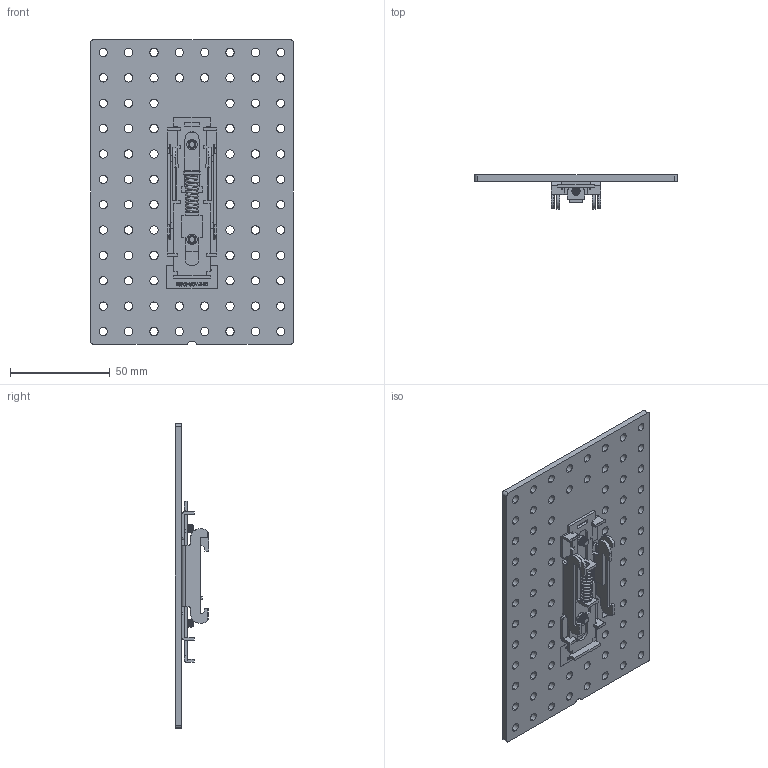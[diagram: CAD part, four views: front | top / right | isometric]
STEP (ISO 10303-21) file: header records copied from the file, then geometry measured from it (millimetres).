
FILE_DESCRIPTION (( 'STEP AP214' ), '1' );
FILE_NAME ('dinpa02-4060b_rev_a.step', '2024-05-08T19:40:02', ( '' ), ( '' ), 'SwSTEP 2.0', 'SolidWorks 2018', '' );
FILE_SCHEMA (( 'AUTOMOTIVE_DESIGN' ));
Length unit declared in the file: inch
Products named in the file (5): dinpa02-4060b_plate; dinpa02-4060b_rev_a; M4 8mm FH_92010A218; dinpa02-4060b_label; DINM23_Clip
Assembly tree (5 placements, depth 2):
  dinpa02-4060b_rev_a
    dinpa02-4060b_plate
    DINM23_Clip
    M4 8mm FH_92010A218  x2
    dinpa02-4060b_label
Bounding box: 101.6 x 16.95 x 152.4 mm (x, y, z)
Volume: 50972.2 mm3; surface area: 43842.5 mm2
Topology: 7 solids, 7 shells, 1259 faces, 3386 edges, 2193 vertices
Faces by surface type: plane 515, cylinder 418, bspline 250, cone 42, torus 34
Entity records: 65186 total; most frequent: CARTESIAN_POINT 23915, ORIENTED_EDGE 6358, DIRECTION 5315, EDGE_CURVE 3179, VERTEX_POINT 2063, LINE 1851, VECTOR 1851, AXIS2_PLACEMENT_3D 1732
